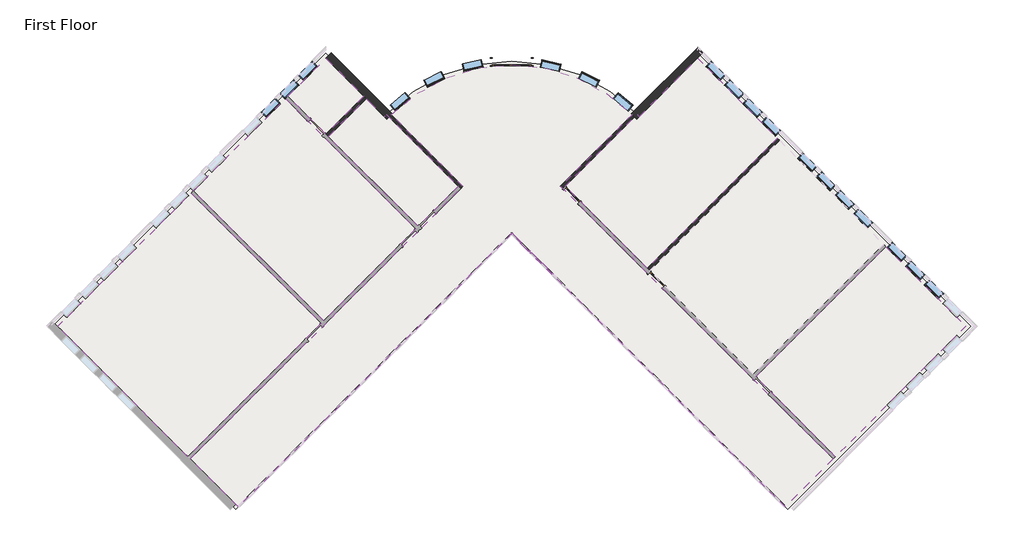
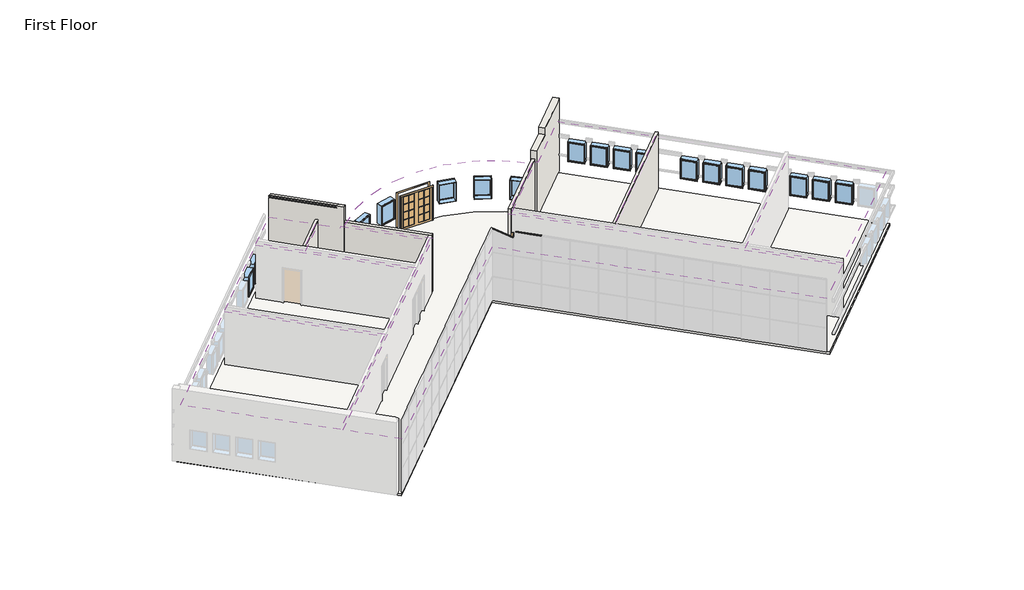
# One storey, part 4 of 5: 20 windows, 8 coverings, 6 walls, 3 doors, 3 members, 1 slab.
"""IFC4 building model written with IfcOpenShell, lengths in millimetres."""

from ifc_helpers import new_model, si_unit, point, frame, frame_2d, origin, origin_with_axes, place, context, project, spatial, polyline, circle_curve, ellipse_curve, trimmed, segment, composite_curve, outline, extrude, transform, mapped, element, save
from ifc_brep_helpers import plane_surface, cylinder_surface, revolved_surface, advanced_brep
from components import door_0a477ef8, door_5f5b55da, member_b87a50da, member_9574b3de, member_76f0c52a, window_15c49d37, window_0e2fc6ce

model = new_model("IFC4")

# Units and contexts
model_context = context("Model", 3, world=origin())
ifc_project = project(units=[si_unit("LENGTHUNIT", "METRE", prefix="MILLI")], contexts=[model_context])

# Site, building, storey
site = spatial("IfcSite", under=ifc_project)
building = spatial("IfcBuilding", under=site)
storey = spatial("IfcBuildingStorey", under=building, Name="First Floor", Elevation=0.0)

# Coverings
placement = place(None, origin())
element("IfcCovering", 1, ObjectType="2' x 2' ACT System", at=placement, inside=storey, context=model_context, shape_type="SweptSolid", body=[
    extrude(outline(polyline([(-17633.6967091, 4930.552621), (-13359.2125777, 9205.0367523), (-7322.2354004, 3168.0595749), (-11596.7195317, -1106.4245564), (-17633.6967091, 4930.552621)])), frame((0.0, 0.0, 3352.8), z_axis=(0.0, 0.0, 1.0), x_axis=(1.0, 0.0, 0.0)), (0.0, 0.0, 1.0), 57.15),
])
element("IfcCovering", 2, ObjectType="2' x 2' ACT System", at=placement, inside=storey, context=model_context, shape_type="SweptSolid", body=[
    extrude(outline(polyline([(-11706.7276692, -1216.4326939), (-17885.2616628, -7394.9666875), (-23922.2388402, -1357.9895101), (-17743.7048466, 4820.5444835), (-11706.7276692, -1216.4326939)])), frame((0.0, 0.0, 3352.8), z_axis=(0.0, 0.0, 1.0), x_axis=(1.0, 0.0, 0.0)), (0.0, 0.0, 1.0), 57.15),
])
element("IfcCovering", 3, ObjectType="2' x 2' ACT System", at=placement, inside=storey, context=model_context, shape_type="SweptSolid", body=[
    extrude(outline(composite_curve([segment(polyline([(-607.4844504, 5141.7064221), (12039.1967967, -7504.974825), (9814.3383427, -9729.833279), (-2868.0283643, 2952.533428), (-15550.3950713, -9729.833279), (-17775.2535253, -7504.974825), (-5128.5722782, 5141.7064221), (-8449.0111375, 8462.1452813)]), True, "CONTINUOUS"), segment(trimmed(circle_curve(frame_2d((-2868.0283643, 2903.1420194)), 7877.175), [point((-8449.0111375, 8462.1452813))], [point((2712.9544089, 8462.1452813))], False, "CARTESIAN"), True, "CONTINUOUS"), segment(polyline([(2712.9544089, 8462.1452813), (-607.4844504, 5141.7064221)]), True, "CONTINUOUS")], self_intersect=False)), frame((0.0, 0.0, 3352.8), z_axis=(0.0, 0.0, 1.0), x_axis=(1.0, 0.0, 0.0)), (0.0, 0.0, 1.0), 57.15),
])
element("IfcCovering", 4, ObjectType="2' x 2' ACT System", at=placement, inside=storey, context=model_context, shape_type="SweptSolid", body=[
    extrude(outline(polyline([(-13249.2044403, 9315.0448898), (-11489.0742405, 11075.1750895), (-9728.9440408, 9315.0448898), (-11489.0742405, 7554.9146901), (-13249.2044403, 9315.0448898)])), frame((0.0, 0.0, 3352.8), z_axis=(0.0, 0.0, 1.0), x_axis=(1.0, 0.0, 0.0)), (0.0, 0.0, 1.0), 57.15),
])
element("IfcCovering", 5, ObjectType="2' x 2' ACT System", at=placement, inside=storey, context=model_context, shape_type="SweptSolid", body=[
    extrude(outline(polyline([(-11379.066103, 7444.9065526), (-9618.9359033, 9205.0367523), (-8786.2632499, 8372.3640989), (-8682.75474, 8475.8726089), (-5348.5885532, 5141.7064221), (-7212.2272629, 3278.0677124), (-11379.066103, 7444.9065526)])), frame((0.0, 0.0, 3352.8), z_axis=(0.0, 0.0, 1.0), x_axis=(1.0, 0.0, 0.0)), (0.0, 0.0, 1.0), 57.15),
])
element("IfcCovering", 6, ObjectType="2' x 2' ACT System", at=placement, inside=storey, context=model_context, shape_type="SweptSolid", body=[
    extrude(outline(composite_curve([segment(polyline([(-607.4844504, 5141.7064221), (12039.1967967, -7504.974825), (9814.3383427, -9729.833279), (-2868.0283643, 2952.533428), (-15550.3950713, -9729.833279), (-17775.2535253, -7504.974825), (-5128.5722782, 5141.7064221), (-8449.0111375, 8462.1452813)]), True, "CONTINUOUS"), segment(trimmed(circle_curve(frame_2d((-2868.0283643, 2903.1420194)), 7877.175), [point((-8449.0111375, 8462.1452813))], [point((2712.9544089, 8462.1452813))], False, "CARTESIAN"), True, "CONTINUOUS"), segment(polyline([(2712.9544089, 8462.1452813), (-607.4844504, 5141.7064221)]), True, "CONTINUOUS")], self_intersect=False)), frame((0.0, 0.0, 3352.8), z_axis=(0.0, 0.0, 1.0), x_axis=(1.0, 0.0, 0.0)), (0.0, 0.0, 1.0), 57.15),
])
element("IfcCovering", 7, ObjectType="2' x 2' ACT System", at=placement, inside=storey, context=model_context, shape_type="SweptSolid", body=[
    extrude(outline(polyline([(2946.6980114, 8475.8726089), (3050.2065213, 8372.3640989), (5753.0175119, 11075.1750895), (9452.8830338, 7375.3095676), (3415.9058564, 1338.3323903), (-387.4681754, 5141.7064221), (2946.6980114, 8475.8726089)])), frame((0.0, 0.0, 3352.8), z_axis=(0.0, 0.0, 1.0), x_axis=(1.0, 0.0, 0.0)), (0.0, 0.0, 1.0), 57.15),
])
element("IfcCovering", 8, ObjectType="2' x 2' ACT System", at=placement, inside=storey, context=model_context, shape_type="SweptSolid", body=[
    extrude(outline(polyline([(8449.3394123, -3695.1011656), (14486.3165897, 2341.8760118), (18186.1821115, -1357.9895101), (12149.2049342, -7394.9666875), (8449.3394123, -3695.1011656)])), frame((0.0, 0.0, 3352.8), z_axis=(0.0, 0.0, 1.0), x_axis=(1.0, 0.0, 0.0)), (0.0, 0.0, 1.0), 57.15),
])

# Doors
door_shape = door_0a477ef8(model_context)
element("IfcDoor", 9, ObjectType="Double-Glass 2 : 72\" x 84\"", at=placement, inside=storey, context=model_context, shape_type="MappedRepresentation", body=[
    mapped(door_shape, transform((-2868.7603243, 10905.5717204, 0.0), x_axis=(-0.9999999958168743, -9.146721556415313e-05, 0.0), y_axis=(9.146721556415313e-05, -0.9999999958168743, 0.0), z_axis=(0.0, 0.0, 1.0))),
])
door_2_shape = door_5f5b55da(model_context)
element("IfcDoor", 10, ObjectType="Single-Glass 1 : 36\" x 84\"", at=placement, inside=storey, context=model_context, shape_type="MappedRepresentation", body=[
    mapped(door_2_shape, transform((-66.4240191, 4710.6541283, 0.0), x_axis=(-0.7071067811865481, 0.7071067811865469, 0.0), y_axis=(-0.7071067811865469, -0.7071067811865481, 0.0), z_axis=(0.0, 0.0, 1.0))),
])
element("IfcDoor", 11, ObjectType="Single-Glass 1 : 36\" x 84\"", at=placement, inside=storey, context=model_context, shape_type="MappedRepresentation", body=[
    mapped(door_2_shape, transform((3846.9581502, 797.271959, 0.0), x_axis=(-0.7071067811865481, 0.7071067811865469, 0.0), y_axis=(-0.7071067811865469, -0.7071067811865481, 0.0), z_axis=(0.0, 0.0, 1.0))),
])

# Members
member_shape = member_b87a50da(model_context)
element("IfcMember", 12, ObjectType="Rectangular Mullion : 1.5\" x 2.5\" Rectangular", at=placement, inside=storey, context=model_context, shape_type="MappedRepresentation", body=[
    mapped(member_shape, transform((-2868.0283643, 2952.533428, 0.0), x_axis=(-0.7071067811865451, 0.70710678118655, 0.0), y_axis=(0.70710678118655, 0.7071067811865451, 0.0), z_axis=(0.0, 0.0, -1.0))),
])
member_2_shape = member_9574b3de(model_context)
element("IfcMember", 13, ObjectType="Rectangular Mullion : 1.5\" x 2.5\" Rectangular", at=placement, inside=storey, context=model_context, shape_type="MappedRepresentation", body=[
    mapped(member_2_shape, transform((-1978.9830083, 2063.488072, 4572.0), x_axis=(0.0, 0.0, 1.0), y_axis=(0.7071067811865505, 0.7071067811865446, 0.0), z_axis=(-0.7071067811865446, 0.7071067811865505, 0.0))),
])
member_3_shape = member_76f0c52a(model_context)
element("IfcMember", 14, ObjectType="Rectangular Mullion : 1.5\" x 2.5\" Rectangular", at=placement, inside=storey, context=model_context, shape_type="MappedRepresentation", body=[
    mapped(member_3_shape, transform((-2868.0283643, 2952.533428, 4572.0), x_axis=(0.2236067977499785, -0.22360679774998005, 0.9486832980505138), y_axis=(0.7071067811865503, 0.7071067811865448, 0.0), z_axis=(-0.6708203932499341, 0.6708203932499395, 0.31622776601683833))),
])

# Slab
element("IfcSlab", 15, ObjectType="LW Concrete on Metal Deck", at=placement, inside=storey, context=model_context, shape_type="SweptSolid", body=[
    extrude(outline(composite_curve([segment(polyline([(-11489.0742405, 11308.6617487), (-8661.5174871, 8481.1049952)]), True, "CONTINUOUS"), segment(trimmed(circle_curve(frame_2d((-2868.0283643, 2903.1420194)), 8042.275), [point((-8661.5174871, 8481.1049952))], [point((2925.4607585, 8481.1049952))], False, "CARTESIAN"), True, "CONTINUOUS"), segment(polyline([(2925.4607585, 8481.1049952), (5753.0175119, 11308.6617487), (18419.6687707, -1357.9895101), (9931.0816722, -9846.5766085), (-2868.0283643, 2952.533428), (-15667.1384009, -9846.5766085), (-24155.7254993, -1357.9895101), (-11489.0742405, 11308.6617487)]), True, "CONTINUOUS")], self_intersect=False)), frame((0.0, 0.0, -139.7), z_axis=(0.0, 0.0, 1.0), x_axis=(1.0, 0.0, 0.0)), (0.0, 0.0, 1.0), 139.7),
])

# Walls
element("IfcWall", 16, ObjectType="Exterior - Split Face and CMU on Mtl. Stud", at=placement, inside=storey, context=model_context, shape_type="AdvancedBrep", body=[
    advanced_brep(
    [(2921.9555443, 8244.1131219, 0.0), (5753.0175119, 11075.1750895, 0.0), (6002.2196193, 11324.3771969, 0.0), (6002.2196193, 11324.3771969, 1016.0), (5937.1127624, 11259.27034, 1016.0), (5937.1127624, 11259.27034, 1085.85), (6002.2196193, 11324.3771969, 1085.85), (6002.2196193, 11324.3771969, 2133.6), (5937.1127624, 11259.27034, 2133.6), (5937.1127624, 11259.27034, 2336.8), (6002.2196193, 11324.3771969, 2336.8), (6002.2196193, 11324.3771969, 3048.0), (5937.1127624, 11259.27034, 3048.0), (5937.1127624, 11259.27034, 3251.2), (6002.2196193, 11324.3771969, 3251.2), (6002.2196193, 11324.3771969, 4572.0), (5753.0175119, 11075.1750895, 4572.0), (4034.0155785, 9356.1731561, 4572.0), (4034.0155785, 9356.1731561, 4165.6), (2921.9555443, 8244.1131219, 4165.6), (2677.2250436, 8497.7868359, 0.0), (2677.2250436, 8497.7868359, 4165.6), (3788.5408447, 9609.102637, 4165.6), (3788.5408447, 9609.102637, 4572.0), (5753.0175119, 11573.5793042, 4572.0), (5753.0175119, 11573.5793042, 3251.2), (2926.4294954, 8746.9912878, 3251.2), (2861.3220456, 8681.8838379, 3251.2), (2861.3220456, 8681.8838379, 3048.0), (2926.4294954, 8746.9912878, 3048.0), (5753.0175119, 11573.5793042, 3048.0), (5753.0175119, 11573.5793042, 2336.8), (2926.4294954, 8746.9912878, 2336.8), (2861.3220456, 8681.8838379, 2336.8), (2861.3220456, 8681.8838379, 2133.6), (2926.4294954, 8746.9912878, 2133.6), (5753.0175119, 11573.5793042, 2133.6), (5753.0175119, 11573.5793042, 1085.85), (2926.4294954, 8746.9912878, 1085.85), (2861.3220456, 8681.8838379, 1085.85), (2861.3220456, 8681.8838379, 1016.0), (2926.4294954, 8746.9912878, 1016.0), (5753.0175119, 11573.5793042, 1016.0), (5753.0175119, 11573.5793042, 0.0), (2926.4294954, 8746.9912878, 0.0), (5818.1243688, 11508.4724474, 0.0), (2712.9544089, 8462.1452813, 0.0), (2742.2400511, 8432.5881297, 0.0), (2821.6568654, 8350.8358404, 0.0), (5753.0175119, 11443.3655905, 1085.85), (2926.3399919, 8616.6880705, 1085.85), (2926.3399919, 8616.6880705, 1016.0), (5753.0175119, 11443.3655905, 1016.0), (2926.3399919, 8616.6880705, 2133.6), (5753.0175119, 11443.3655905, 2133.6), (2926.3399919, 8616.6880705, 2336.8), (5753.0175119, 11443.3655905, 2336.8), (2926.3399919, 8616.6880705, 3048.0), (5753.0175119, 11443.3655905, 3048.0), (2926.3399919, 8616.6880705, 3251.2), (5753.0175119, 11443.3655905, 3251.2)],
    [
        (0, 1),
        (1, 2),
        (2, 3),
        (3, 4),
        (4, 5),
        (5, 6),
        (6, 7),
        (7, 8),
        (8, 9),
        (9, 10),
        (10, 11),
        (11, 12),
        (12, 13),
        (13, 14),
        (14, 15),
        (15, 16),
        (16, 17),
        (17, 18),
        (18, 19),
        (19, 0),
        (20, 21),
        (21, 22),
        (22, 23),
        (23, 24),
        (24, 25),
        (25, 26),
        (26, 27),
        (27, 28),
        (28, 29),
        (29, 30),
        (30, 31),
        (31, 32),
        (32, 33),
        (33, 34),
        (34, 35),
        (35, 36),
        (36, 37),
        (37, 38),
        (38, 39),
        (39, 40),
        (40, 41),
        (41, 42),
        (42, 43),
        (43, 44),
        (44, 20),
        (24, 15),
        (14, 25),
        (2, 45),
        (45, 43),
        (42, 3),
        (6, 37),
        (36, 7),
        (10, 31),
        (30, 11),
        (19, 21, circle_curve(frame((-2868.0283643, 2903.1420194, 4165.6), z_axis=(0.0, 0.0, 1.0), x_axis=(1.0, 0.0, 0.0)), 7877.175)),
        (20, 46, circle_curve(frame((-2868.0283643, 2903.1420194, 0.0), z_axis=(0.0, 0.0, -1.0), x_axis=(1.0, 0.0, 0.0)), 7877.175)),
        (46, 47, circle_curve(frame((-2868.0283643, 2903.1420194, 0.0), z_axis=(0.0, 0.0, -1.0), x_axis=(1.0, 0.0, 0.0)), 7877.175)),
        (47, 48, circle_curve(frame((-2868.0283643, 2903.1420194, 0.0), z_axis=(0.0, 0.0, -1.0), x_axis=(1.0, 0.0, 0.0)), 7877.175)),
        (48, 0, circle_curve(frame((-2868.0283643, 2903.1420194, 0.0), z_axis=(0.0, 0.0, -1.0), x_axis=(1.0, 0.0, 0.0)), 7877.175)),
        (23, 17, circle_curve(frame((-2868.0283643, 2903.1420194, 4572.0), z_axis=(0.0, 0.0, -1.0), x_axis=(1.0, 0.0, 0.0)), 9448.8)),
        (22, 18, circle_curve(frame((-2868.0283643, 2903.1420194, 4165.6), z_axis=(0.0, 0.0, -1.0), x_axis=(1.0, 0.0, 0.0)), 9448.8)),
        (47, 45),
        (49, 50),
        (50, 39, circle_curve(frame((-2868.0283643, 2903.1420194, 1085.85), z_axis=(0.0, 0.0, 1.0), x_axis=(0.6844196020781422, 0.7290883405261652, 0.0)), 8137.525)),
        (5, 49),
        (51, 52),
        (52, 4),
        (40, 51, circle_curve(frame((-2868.0283643, 2903.1420194, 1016.0), z_axis=(0.0, 0.0, -1.0), x_axis=(0.6844196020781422, 0.7290883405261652, 0.0)), 8137.525)),
        (50, 51),
        (49, 52),
        (53, 54),
        (54, 8),
        (34, 53, circle_curve(frame((-2868.0283643, 2903.1420194, 2133.6), z_axis=(0.0, 0.0, -1.0), x_axis=(0.6844196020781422, 0.7290883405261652, 0.0)), 8137.525)),
        (55, 53),
        (33, 55, circle_curve(frame((-2868.0283643, 2903.1420194, 2336.8), z_axis=(0.0, 0.0, -1.0), x_axis=(0.6844196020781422, 0.7290883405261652, 0.0)), 8137.525)),
        (56, 55),
        (9, 56),
        (56, 54),
        (57, 58),
        (58, 12),
        (28, 57, circle_curve(frame((-2868.0283643, 2903.1420194, 3048.0), z_axis=(0.0, 0.0, -1.0), x_axis=(-0.7040995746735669, 0.7101012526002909, 0.0)), 8137.525)),
        (59, 57),
        (27, 59, circle_curve(frame((-2868.0283643, 2903.1420194, 3251.2), z_axis=(0.0, 0.0, -1.0), x_axis=(-0.7040995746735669, 0.7101012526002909, 0.0)), 8137.525)),
        (60, 59),
        (13, 60),
        (60, 58),
    ],
    [
        plane_surface(frame((2984.8535626, 8307.0111402, 0.0), z_axis=(0.707106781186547, -0.7071067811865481, 0.0), x_axis=(0.7071067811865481, 0.707106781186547, 0.0))),
        plane_surface(frame((2735.6514552, 8556.2132476, 0.0), z_axis=(-0.707106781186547, 0.7071067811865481, 0.0), x_axis=(-0.7071067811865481, -0.707106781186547, 0.0))),
        plane_surface(frame((5753.0175119, 11573.5793042, 0.0), z_axis=(0.7071067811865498, 0.7071067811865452, 0.0), x_axis=(-0.7071067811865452, 0.7071067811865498, 0.0))),
        revolved_surface(polyline([(5009.146635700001, 2903.1420194, 0.0), (5009.146635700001, 2903.1420194, 4165.6)]), (-2868.0283643, 2903.1420194, 0.0), (0.0, 0.0, -1.0)),
        plane_surface(frame((5877.6185656, 11199.7761432, 4572.0), z_axis=(0.0, 0.0, 1.0), x_axis=(-0.707106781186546, 0.7071067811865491, 0.0))),
        revolved_surface(polyline([(6580.771635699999, 2903.1420194, 4572.0), (6580.771635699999, 2903.1420194, 4165.6)]), (-2868.0283643, 2903.1420194, 0.0), (0.0, 0.0, 1.0)),
        plane_surface(frame((-2868.0283643, 2903.1420194, 4165.6), z_axis=(0.0, 0.0, 1.0), x_axis=(1.0, 0.0, 0.0))),
        plane_surface(frame((3050.2065213, 8372.3640989, 0.0), z_axis=(0.0, 0.0, -1.0000000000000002), x_axis=(-0.7071067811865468, 0.7071067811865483, 0.0))),
        plane_surface(frame((0.0, 0.0, 0.0), z_axis=(0.0, 0.0, -1.0), x_axis=(1.0, 0.0, 0.0))),
        plane_surface(frame((-2868.0283643, 2903.1420194, 1085.85), z_axis=(0.0, 0.0, -1.0), x_axis=(0.6844196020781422, 0.7290883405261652, 0.0))),
        plane_surface(frame((-2868.0283643, 2903.1420194, 1016.0), z_axis=(0.0, 0.0, 1.0), x_axis=(0.6844196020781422, 0.7290883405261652, 0.0))),
        cylinder_surface(frame((-2868.0283643, 2903.1420194, 1016.0), z_axis=(0.0, 0.0, -1.0), x_axis=(0.6844196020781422, 0.7290883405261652, 0.0)), 8137.525),
        plane_surface(frame((2926.3399919, 8616.6880705, 1016.0), z_axis=(-0.7071067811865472, 0.7071067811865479, 0.0), x_axis=(0.7071067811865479, 0.7071067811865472, 0.0))),
        plane_surface(frame((5753.0175119, 11443.3655905, 1016.0), z_axis=(0.7071067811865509, 0.7071067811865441, 0.0), x_axis=(0.7071067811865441, -0.7071067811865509, 0.0))),
        plane_surface(frame((-2868.0283643, 2903.1420194, 2133.6), z_axis=(0.0, 0.0, 1.0), x_axis=(0.6844196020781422, 0.7290883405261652, 0.0))),
        cylinder_surface(frame((-2868.0283643, 2903.1420194, 2133.6), z_axis=(0.0, 0.0, -1.0), x_axis=(0.6844196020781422, 0.7290883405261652, 0.0)), 8137.525),
        plane_surface(frame((-2868.0283643, 2903.1420194, 2336.8), z_axis=(0.0, 0.0, -1.0), x_axis=(0.6844196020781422, 0.7290883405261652, 0.0))),
        plane_surface(frame((2926.3399919, 8616.6880705, 2133.6), z_axis=(-0.7071067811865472, 0.7071067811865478, 0.0), x_axis=(0.7071067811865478, 0.7071067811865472, 0.0))),
        plane_surface(frame((5753.0175119, 11443.3655905, 2133.6), z_axis=(0.7071067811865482, 0.7071067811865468, 0.0), x_axis=(0.7071067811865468, -0.7071067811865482, 0.0))),
        plane_surface(frame((-2868.0283643, 2903.1420194, 3048.0), z_axis=(0.0, 0.0, 1.0), x_axis=(-0.7040995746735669, 0.7101012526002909, 0.0))),
        cylinder_surface(frame((-2868.0283643, 2903.1420194, 3048.0), z_axis=(0.0, 0.0, -1.0), x_axis=(-0.7040995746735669, 0.7101012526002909, 0.0)), 8137.525),
        plane_surface(frame((-2868.0283643, 2903.1420194, 3251.2), z_axis=(0.0, 0.0, -1.0), x_axis=(-0.7040995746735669, 0.7101012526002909, 0.0))),
        plane_surface(frame((2926.3399919, 8616.6880705, 3048.0), z_axis=(-0.7071067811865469, 0.7071067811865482, 0.0), x_axis=(0.7071067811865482, 0.7071067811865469, 0.0))),
        plane_surface(frame((5753.0175119, 11443.3655905, 3048.0), z_axis=(0.7071067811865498, 0.7071067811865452, 0.0), x_axis=(0.7071067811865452, -0.7071067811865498, 0.0))),
    ],
    [
        (0, [[1, 2, 3, 4, 5, 6, 7, 8, 9, 10, 11, 12, 13, 14, 15, 16, 17, 18, 19, 20]]),
        (1, [[21, 22, 23, 24, 25, 26, 27, 28, 29, 30, 31, 32, 33, 34, 35, 36, 37, 38, 39, 40, 41, 42, 43, 44, 45]]),
        (2, [[46, -15, 47, -25]]),
        (2, [[48, 49, -43, 50, -3]]),
        (2, [[51, -37, 52, -7]]),
        (2, [[53, -31, 54, -11]]),
        (3, [[-20, 55, -21, 56, 57, 58, 59]]),
        (4, [[-46, -24, 60, -17, -16]]),
        (5, [[-60, -23, 61, -18]]),
        (6, [[-19, -61, -22, -55]]),
        (7, [[-2, -1, -59, -58, 62, -48]]),
        (8, [[-57, -56, -45, -44, -49, -62]]),
        (9, [[63, 64, -39, -38, -51, -6, 65]]),
        (10, [[66, 67, -4, -50, -42, -41, 68]]),
        (11, [[69, -68, -40, -64]]),
        (12, [[-63, 70, -66, -69]]),
        (13, [[-70, -65, -5, -67]]),
        (14, [[71, 72, -8, -52, -36, -35, 73]]),
        (15, [[74, -73, -34, 75]]),
        (16, [[76, -75, -33, -32, -53, -10, 77]]),
        (17, [[-71, -74, -76, 78]]),
        (18, [[-78, -77, -9, -72]]),
        (19, [[79, 80, -12, -54, -30, -29, 81]]),
        (20, [[82, -81, -28, 83]]),
        (21, [[84, -83, -27, -26, -47, -14, 85]]),
        (22, [[-79, -82, -84, 86]]),
        (23, [[-86, -85, -13, -80]]),
    ],
),
])
element("IfcWall", 17, ObjectType="Exterior - Split Face and CMU on Mtl. Stud", at=placement, inside=storey, context=model_context, shape_type="AdvancedBrep", body=[
    advanced_brep(
    [(-11489.0742405, 11075.1750895, 0.0), (-9728.9440408, 9315.0448898, 0.0), (-9618.9359033, 9205.0367523, 0.0), (-8658.0122729, 8244.1131219, 0.0), (-8658.0122729, 8244.1131219, 4689.475), (-11489.0742405, 11075.1750895, 4689.475), (-11489.0742405, 11075.1750895, 4639.3965909), (-8911.6883314, 8497.7891804, 4639.3965909), (-8911.6883314, 8497.7891804, 4572.0), (-11489.0742405, 11075.1750895, 4572.0), (-8413.2817722, 8497.7868359, 4572.0), (-8413.2817722, 8497.7868359, 0.0), (-8662.486224, 8746.9912878, 0.0), (-11239.8721332, 11324.3771969, 0.0), (-11239.8721332, 11324.3771969, 1016.0), (-8662.486224, 8746.9912878, 1016.0), (-8597.3787742, 8681.8838379, 1016.0), (-8597.3787742, 8681.8838379, 1085.85), (-8662.486224, 8746.9912878, 1085.85), (-11239.8721332, 11324.3771969, 1085.85), (-11239.8721332, 11324.3771969, 2133.6), (-8662.486224, 8746.9912878, 2133.6), (-8597.3787742, 8681.8838379, 2133.6), (-8597.3787742, 8681.8838379, 2336.8), (-8662.486224, 8746.9912878, 2336.8), (-11239.8721332, 11324.3771969, 2336.8), (-11239.8721332, 11324.3771969, 3048.0), (-8662.486224, 8746.9912878, 3048.0), (-8597.3787742, 8681.8838379, 3048.0), (-8597.3787742, 8681.8838379, 3251.2), (-8662.486224, 8746.9912878, 3251.2), (-11239.8721332, 11324.3771969, 3251.2), (-11239.8721332, 11324.3771969, 4572.0), (-8662.486224, 8746.9912878, 4572.0), (-8557.713594, 8350.8358404, 0.0), (-8478.2967797, 8432.5881297, 0.0), (-8449.0111375, 8462.1452813, 0.0), (-11304.9789901, 11259.27034, 0.0), (-11304.9789901, 11259.27034, 3251.2), (-11304.9789901, 11259.27034, 3048.0), (-11304.9789901, 11259.27034, 2336.8), (-11304.9789901, 11259.27034, 2133.6), (-11304.9789901, 11259.27034, 1085.85), (-11304.9789901, 11259.27034, 1016.0), (-11413.683542, 11150.5657881, 4653.9354839), (-8836.2976328, 8573.179879, 4653.9354839), (-8662.3967205, 8616.6880705, 1085.85), (-8662.3967205, 8616.6880705, 1016.0), (-8662.3967205, 8616.6880705, 2336.8), (-8662.3967205, 8616.6880705, 2133.6), (-8662.3967205, 8616.6880705, 3251.2), (-8662.3967205, 8616.6880705, 3048.0)],
    [
        (0, 1),
        (1, 2),
        (2, 3),
        (3, 4),
        (4, 5),
        (5, 6),
        (6, 7),
        (7, 8),
        (8, 9),
        (9, 0),
        (10, 11),
        (11, 12),
        (12, 13),
        (13, 14),
        (14, 15),
        (15, 16),
        (16, 17),
        (17, 18),
        (18, 19),
        (19, 20),
        (20, 21),
        (21, 22),
        (22, 23),
        (23, 24),
        (24, 25),
        (25, 26),
        (26, 27),
        (27, 28),
        (28, 29),
        (29, 30),
        (30, 31),
        (31, 32),
        (32, 33),
        (33, 10),
        (3, 34, circle_curve(frame((-2868.0283643, 2903.1420194, 0.0), z_axis=(0.0, 0.0, -1.0), x_axis=(1.0, 0.0, 0.0)), 7877.175)),
        (34, 35, circle_curve(frame((-2868.0283643, 2903.1420194, 0.0), z_axis=(0.0, 0.0, -1.0), x_axis=(1.0, 0.0, 0.0)), 7877.175)),
        (35, 36, circle_curve(frame((-2868.0283643, 2903.1420194, 0.0), z_axis=(0.0, 0.0, -1.0), x_axis=(1.0, 0.0, 0.0)), 7877.175)),
        (36, 11, circle_curve(frame((-2868.0283643, 2903.1420194, 0.0), z_axis=(0.0, 0.0, -1.0), x_axis=(1.0, 0.0, 0.0)), 7877.175)),
        (10, 4, ellipse_curve(frame((-2868.0283643, 2903.1420194, 4583.6416667), z_axis=(0.2236067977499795, 0.22360679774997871, 0.9486832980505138), x_axis=(0.6708203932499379, 0.6708203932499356, -0.31622776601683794)), 8303.2715092, 7877.175)),
        (37, 0),
        (9, 32),
        (31, 38),
        (38, 39),
        (39, 26),
        (25, 40),
        (40, 41),
        (41, 20),
        (19, 42),
        (42, 43),
        (43, 14),
        (13, 37),
        (5, 44),
        (44, 6),
        (33, 45),
        (45, 44),
        (37, 35),
        (46, 47),
        (47, 43),
        (42, 46),
        (17, 46, circle_curve(frame((-2868.0283643, 2903.1420194, 1085.85), z_axis=(0.0, 0.0, 1.0), x_axis=(-0.7040995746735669, 0.7101012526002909, 0.0)), 8137.525)),
        (47, 16, circle_curve(frame((-2868.0283643, 2903.1420194, 1016.0), z_axis=(0.0, 0.0, -1.0), x_axis=(-0.7040995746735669, 0.7101012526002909, 0.0)), 8137.525)),
        (48, 49),
        (49, 41),
        (40, 48),
        (49, 22, circle_curve(frame((-2868.0283643, 2903.1420194, 2133.6), z_axis=(0.0, 0.0, -1.0), x_axis=(-0.7120553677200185, 0.70212331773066, 0.0)), 8137.525)),
        (48, 23, circle_curve(frame((-2868.0283643, 2903.1420194, 2336.8), z_axis=(0.0, 0.0, -1.0), x_axis=(-0.7120553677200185, 0.70212331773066, 0.0)), 8137.525)),
        (50, 51),
        (51, 39),
        (38, 50),
        (51, 28, circle_curve(frame((-2868.0283643, 2903.1420194, 3048.0), z_axis=(0.0, 0.0, -1.0), x_axis=(-0.7120553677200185, 0.70212331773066, 0.0)), 8137.525)),
        (50, 29, circle_curve(frame((-2868.0283643, 2903.1420194, 3251.2), z_axis=(0.0, 0.0, -1.0), x_axis=(-0.7120553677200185, 0.70212331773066, 0.0)), 8137.525)),
        (8, 33),
        (7, 45),
    ],
    [
        plane_surface(frame((-11738.2763479, 11324.3771969, 0.0), z_axis=(-0.7071067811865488, -0.7071067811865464, 0.0), x_axis=(0.7071067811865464, -0.7071067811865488, 0.0))),
        plane_surface(frame((-11489.0742405, 11573.5793042, 0.0), z_axis=(0.7071067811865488, 0.7071067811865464, 0.0), x_axis=(-0.7071067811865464, 0.7071067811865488, 0.0))),
        revolved_surface(polyline([(5009.146635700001, 2903.1420194, 0.0), (5009.146635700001, 2903.1420194, 7209.366666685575)]), (-2868.0283643, 2903.1420194, 0.0), (0.0, 0.0, -1.0)),
        plane_surface(frame((-24171.4409475, -1607.1916175, 0.0), z_axis=(-0.7071067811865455, 0.7071067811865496, 0.0), x_axis=(0.7071067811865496, 0.7071067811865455, 0.0))),
        plane_surface(frame((-1143.8191891, 2952.533428, 4165.6), z_axis=(0.2236067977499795, 0.22360679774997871, 0.9486832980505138), x_axis=(-0.7071067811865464, 0.7071067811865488, 0.0))),
        plane_surface(frame((-11613.6752942, 11199.7761432, 0.0), z_axis=(0.0, 0.0, -1.0000000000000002), x_axis=(0.7071067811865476, 0.7071067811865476, 0.0))),
        plane_surface(frame((0.0, 0.0, 0.0), z_axis=(0.0, 0.0, -1.0), x_axis=(1.0, 0.0, 0.0))),
        plane_surface(frame((-11489.0742405, 11443.3655905, 1016.0), z_axis=(0.7071067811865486, 0.7071067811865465, 0.0), x_axis=(0.7071067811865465, -0.7071067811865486, 0.0))),
        plane_surface(frame((-2868.0283643, 2903.1420194, 1085.85), z_axis=(0.0, 0.0, -1.0), x_axis=(-0.7040995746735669, 0.7101012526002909, 0.0))),
        plane_surface(frame((-2868.0283643, 2903.1420194, 1016.0), z_axis=(0.0, 0.0, 1.0), x_axis=(-0.7040995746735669, 0.7101012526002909, 0.0))),
        cylinder_surface(frame((-2868.0283643, 2903.1420194, 1016.0), z_axis=(0.0, 0.0, -1.0), x_axis=(-0.7040995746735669, 0.7101012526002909, 0.0)), 8137.525),
        plane_surface(frame((-11489.0742405, 11443.3655905, 2133.6), z_axis=(0.7071067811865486, 0.7071067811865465, 0.0), x_axis=(0.7071067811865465, -0.7071067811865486, 0.0))),
        plane_surface(frame((-2868.0283643, 2903.1420194, 2133.6), z_axis=(0.0, 0.0, 1.0), x_axis=(-0.7120553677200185, 0.70212331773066, 0.0))),
        cylinder_surface(frame((-2868.0283643, 2903.1420194, 2133.6), z_axis=(0.0, 0.0, -1.0), x_axis=(-0.7120553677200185, 0.70212331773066, 0.0)), 8137.525),
        plane_surface(frame((-2868.0283643, 2903.1420194, 2336.8), z_axis=(0.0, 0.0, -1.0), x_axis=(-0.7120553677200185, 0.70212331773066, 0.0))),
        plane_surface(frame((-11489.0742405, 11443.3655905, 3048.0), z_axis=(0.7071067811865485, 0.7071067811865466, 0.0), x_axis=(0.7071067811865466, -0.7071067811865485, 0.0))),
        plane_surface(frame((-2868.0283643, 2903.1420194, 3048.0), z_axis=(0.0, 0.0, 1.0), x_axis=(-0.7120553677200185, 0.70212331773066, 0.0))),
        cylinder_surface(frame((-2868.0283643, 2903.1420194, 3048.0), z_axis=(0.0, 0.0, -1.0), x_axis=(-0.7120553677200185, 0.70212331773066, 0.0)), 8137.525),
        plane_surface(frame((-2868.0283643, 2903.1420194, 3251.2), z_axis=(0.0, 0.0, -1.0), x_axis=(-0.7120553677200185, 0.70212331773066, 0.0))),
        plane_surface(frame((-24438.6035671, -1340.0289979, 4572.0), z_axis=(0.0, 0.0, 1.0), x_axis=(0.7071067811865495, 0.7071067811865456, 0.0))),
        plane_surface(frame((-8662.486224, 8746.9912878, 4185.7445793), z_axis=(-0.7071067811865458, 0.7071067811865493, 0.0), x_axis=(0.7071067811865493, 0.7071067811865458, 0.0))),
        plane_surface(frame((-11489.0742405, 11034.763937, 4635.5), z_axis=(0.09553946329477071, 0.09553946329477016, -0.9908301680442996), x_axis=(0.7071067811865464, -0.7071067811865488, 0.0))),
    ],
    [
        (0, [[1, 2, 3, 4, 5, 6, 7, 8, 9, 10]]),
        (1, [[11, 12, 13, 14, 15, 16, 17, 18, 19, 20, 21, 22, 23, 24, 25, 26, 27, 28, 29, 30, 31, 32, 33, 34]]),
        (2, [[-4, 35, 36, 37, 38, -11, 39]]),
        (3, [[40, -10, 41, -32, 42, 43, 44, -26, 45, 46, 47, -20, 48, 49, 50, -14, 51]]),
        (3, [[-6, 52, 53]]),
        (4, [[-5, -39, -34, 54, 55, -52]]),
        (5, [[-3, -2, -1, -40, 56, -36, -35]]),
        (6, [[-51, -13, -12, -38, -37, -56]]),
        (7, [[57, 58, -49, 59]]),
        (8, [[60, -59, -48, -19, -18]]),
        (9, [[-58, 61, -16, -15, -50]]),
        (10, [[-57, -60, -17, -61]]),
        (11, [[62, 63, -46, 64]]),
        (12, [[-63, 65, -22, -21, -47]]),
        (13, [[-62, 66, -23, -65]]),
        (14, [[-66, -64, -45, -25, -24]]),
        (15, [[67, 68, -43, 69]]),
        (16, [[-68, 70, -28, -27, -44]]),
        (17, [[-67, 71, -29, -70]]),
        (18, [[-71, -69, -42, -31, -30]]),
        (19, [[72, -33, -41, -9]]),
        (20, [[73, -54, -72, -8]]),
        (21, [[-73, -7, -53, -55]]),
    ],
),
])
element("IfcWall", 18, ObjectType="Interior - 6 1/8\" Partition (2-hr)", at=placement, inside=storey, context=model_context, shape_type="AdvancedBrep", body=[
    advanced_brep(
    [(-5128.5722782, 5141.7064221, 0.0), (-8449.0111375, 8462.1452813, 0.0), (-8449.0111375, 8462.1452813, 3657.6), (-5128.5722782, 5141.7064221, 3657.6), (-5238.5804157, 5031.6982846, 0.0), (-5238.5804157, 5031.6982846, 3657.6), (-5348.5885532, 5141.7064221, 3657.6), (-8557.7157352, 8350.8336041, 3657.6), (-8557.7157352, 8350.8336041, 0.0), (-5348.5885532, 5141.7064221, 0.0)],
    [
        (0, 1),
        (1, 2),
        (2, 3),
        (3, 0),
        (4, 5),
        (5, 6),
        (6, 7),
        (7, 8),
        (8, 9),
        (9, 4),
        (0, 4),
        (8, 1, circle_curve(frame((-2868.0283643, 2903.1420194, 0.0), z_axis=(0.0, 0.0, -1.0), x_axis=(1.0, 0.0, 0.0)), 7877.175)),
        (2, 7, circle_curve(frame((-2868.0283643, 2903.1420194, 3657.6), z_axis=(0.0, 0.0, 1.0), x_axis=(1.0, 0.0, 0.0)), 7877.175)),
        (5, 3),
    ],
    [
        plane_surface(frame((-5183.576347, 5196.7104908, 0.0), z_axis=(0.7071067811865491, 0.7071067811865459, 0.0), x_axis=(-0.7071067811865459, 0.7071067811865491, 0.0))),
        plane_surface(frame((-5293.5844845, 5086.7023533, 0.0), z_axis=(-0.7071067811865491, -0.7071067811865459, 0.0), x_axis=(0.7071067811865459, -0.7071067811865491, 0.0))),
        plane_surface(frame((-5183.576347, 5196.7104908, 0.0), z_axis=(0.0, 0.0, -1.0), x_axis=(-0.707106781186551, -0.7071067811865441, 0.0))),
        plane_surface(frame((-8573.2406241, 8586.374768, 3657.6), z_axis=(0.0, 0.0, 1.0), x_axis=(-0.707106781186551, -0.7071067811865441, 0.0))),
        plane_surface(frame((-17899.854579, -7629.5758786, 0.0), z_axis=(0.7071067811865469, -0.7071067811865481, 0.0), x_axis=(0.7071067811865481, 0.7071067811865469, 0.0))),
        cylinder_surface(frame((-2868.0283643, 2903.1420194, 0.0), z_axis=(0.0, 0.0, -1.0), x_axis=(1.0, 0.0, 0.0)), 7877.175),
    ],
    [
        (0, [[1, 2, 3, 4]]),
        (1, [[5, 6, 7, 8, 9, 10]]),
        (2, [[-1, 11, -10, -9, 12]]),
        (3, [[-3, 13, -7, -6, 14]]),
        (4, [[-4, -14, -5, -11]]),
        (5, [[-2, -12, -8, -13]]),
    ],
),
])
element("IfcWall", 19, ObjectType="Interior - 6 1/8\" Partition (2-hr)", at=placement, inside=storey, context=model_context, shape_type="SweptSolid", body=[
    extrude(outline(polyline([(-11489.0742405, 7554.9146901), (-9728.9440408, 9315.0448898), (-9618.9359033, 9205.0367523), (-11379.066103, 7444.9065526), (-11489.0742405, 7554.9146901)])), origin_with_axes(), (0.0, 0.0, 1.0), 3657.6),
])
element("IfcWall", 20, ObjectType="Interior - 6 1/8\" Partition (2-hr)", at=placement, inside=storey, context=model_context, shape_type="AdvancedBrep", body=[
    advanced_brep(
    [(-497.4763129, 5031.6982846, 0.0), (-387.4681754, 5141.7064221, 0.0), (2821.6590066, 8350.8336041, 0.0), (2821.6590066, 8350.8336041, 3657.6), (-387.4681754, 5141.7064221, 3657.6), (-497.4763129, 5031.6982846, 3657.6), (-607.4844504, 5141.7064221, 0.0), (-607.4844504, 5141.7064221, 3657.6), (2712.9544089, 8462.1452813, 3657.6), (2712.9544089, 8462.1452813, 0.0)],
    [
        (0, 1),
        (1, 2),
        (2, 3),
        (3, 4),
        (4, 5),
        (5, 0),
        (6, 7),
        (7, 8),
        (8, 9),
        (9, 6),
        (0, 6),
        (9, 2, circle_curve(frame((-2868.0283643, 2903.1420194, 0.0), z_axis=(0.0, 0.0, -1.0), x_axis=(1.0, 0.0, 0.0)), 7877.175)),
        (3, 8, circle_curve(frame((-2868.0283643, 2903.1420194, 3657.6), z_axis=(0.0, 0.0, 1.0), x_axis=(1.0, 0.0, 0.0)), 7877.175)),
        (7, 5),
    ],
    [
        plane_surface(frame((-442.4722441, 5086.7023533, 0.0), z_axis=(0.7071067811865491, -0.7071067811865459, 0.0), x_axis=(0.7071067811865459, 0.7071067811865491, 0.0))),
        plane_surface(frame((-552.4803816, 5196.7104908, 0.0), z_axis=(-0.7071067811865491, 0.7071067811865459, 0.0), x_axis=(-0.7071067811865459, -0.7071067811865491, 0.0))),
        plane_surface(frame((-442.4722441, 5086.7023533, 0.0), z_axis=(0.0, 0.0, -1.0), x_axis=(-0.707106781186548, 0.7071067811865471, 0.0))),
        plane_surface(frame((2947.192033, 8476.3666305, 3657.6), z_axis=(0.0, 0.0, 1.0000000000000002), x_axis=(-0.7071067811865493, 0.7071067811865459, 0.0))),
        plane_surface(frame((12163.7978503, -7629.5758786, 0.0), z_axis=(-0.7071067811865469, -0.7071067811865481, 0.0), x_axis=(0.7071067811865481, -0.7071067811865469, 0.0))),
        cylinder_surface(frame((-2868.0283643, 2903.1420194, 0.0), z_axis=(0.0, 0.0, -1.0), x_axis=(1.0, 0.0, 0.0)), 7877.175),
    ],
    [
        (0, [[1, 2, 3, 4, 5, 6]]),
        (1, [[7, 8, 9, 10]]),
        (2, [[-2, -1, 11, -10, 12]]),
        (3, [[-5, -4, 13, -8, 14]]),
        (4, [[-6, -14, -7, -11]]),
        (5, [[-3, -12, -9, -13]]),
    ],
),
])
element("IfcWall", 21, ObjectType="Interior - 6 1/8\" Partition (2-hr)", at=placement, inside=storey, context=model_context, shape_type="SweptSolid", body=[
    extrude(outline(polyline([(3415.9058564, 1338.3323903), (9452.8830338, 7375.3095676), (9562.8911713, 7265.3014302), (3525.9139939, 1228.3242528), (3415.9058564, 1338.3323903)])), origin_with_axes(), (0.0, 0.0, 1.0), 3657.6),
])

# Windows
window_shape = window_15c49d37(model_context)
element("IfcWindow", 22, ObjectType="Fixed : 36\" x 48\"", at=placement, inside=storey, context=model_context, shape_type="MappedRepresentation", body=[
    mapped(window_shape, transform((-8066.2237793, 9037.6928325, 0.0), x_axis=(-0.7659856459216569, -0.6428576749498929, 0.0), y_axis=(0.6428576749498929, -0.7659856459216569, 0.0), z_axis=(0.0, 0.0, 1.0))),
])
element("IfcWindow", 23, ObjectType="Fixed : 36\" x 48\"", at=placement, inside=storey, context=model_context, shape_type="MappedRepresentation", body=[
    mapped(window_shape, transform((-4714.6266038, 10728.998151, 0.0), x_axis=(-0.9743494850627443, -0.2250401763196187, 0.0), y_axis=(0.2250401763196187, -0.9743494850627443, 0.0), z_axis=(0.0, 0.0, 1.0))),
])
element("IfcWindow", 24, ObjectType="Fixed : 36\" x 48\"", at=placement, inside=storey, context=model_context, shape_type="MappedRepresentation", body=[
    mapped(window_shape, transform((-6490.5147795, 10081.6893252, 0.0), x_axis=(-0.8948935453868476, -0.4462796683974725, 0.0), y_axis=(0.4462796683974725, -0.8948935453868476, 0.0), z_axis=(0.0, 0.0, 1.0))),
])
element("IfcWindow", 25, ObjectType="Fixed : 36\" x 48\"", at=placement, inside=storey, context=model_context, shape_type="MappedRepresentation", body=[
    mapped(window_shape, transform((6554.2698062, 10523.1249026, 0.0), x_axis=(-0.7071067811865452, 0.7071067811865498, 0.0), y_axis=(-0.7071067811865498, -0.7071067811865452, 0.0), z_axis=(0.0, 0.0, 1.0))),
])
element("IfcWindow", 26, ObjectType="Fixed : 36\" x 48\"", at=placement, inside=storey, context=model_context, shape_type="MappedRepresentation", body=[
    mapped(window_shape, transform((7416.3743938, 9661.020315, 0.0), x_axis=(-0.7071067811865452, 0.7071067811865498, 0.0), y_axis=(-0.7071067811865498, -0.7071067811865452, 0.0), z_axis=(0.0, 0.0, 1.0))),
])
element("IfcWindow", 27, ObjectType="Fixed : 36\" x 48\"", at=placement, inside=storey, context=model_context, shape_type="MappedRepresentation", body=[
    mapped(window_shape, transform((8278.4789814, 8798.9157274, 0.0), x_axis=(-0.7071067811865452, 0.7071067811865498, 0.0), y_axis=(-0.7071067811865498, -0.7071067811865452, 0.0), z_axis=(0.0, 0.0, 1.0))),
])
element("IfcWindow", 28, ObjectType="Fixed : 36\" x 48\"", at=placement, inside=storey, context=model_context, shape_type="MappedRepresentation", body=[
    mapped(window_shape, transform((9140.583569, 7936.8111398, 0.0), x_axis=(-0.7071067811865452, 0.7071067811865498, 0.0), y_axis=(-0.7071067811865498, -0.7071067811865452, 0.0), z_axis=(0.0, 0.0, 1.0))),
])
window_2_shape = window_0e2fc6ce(model_context)
element("IfcWindow", 29, ObjectType="Fixed : 36\" x 48\"", at=placement, inside=storey, context=model_context, shape_type="MappedRepresentation", body=[
    mapped(window_2_shape, transform((-12290.3265348, 10523.1249026, 0.0), x_axis=(0.7071067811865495, 0.7071067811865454, 0.0), y_axis=(-0.7071067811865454, 0.7071067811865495, 0.0), z_axis=(0.0, 0.0, 1.0))),
])
element("IfcWindow", 30, ObjectType="Fixed : 36\" x 48\"", at=placement, inside=storey, context=model_context, shape_type="MappedRepresentation", body=[
    mapped(window_2_shape, transform((-13152.4311224, 9661.020315, 0.0), x_axis=(0.7071067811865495, 0.7071067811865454, 0.0), y_axis=(-0.7071067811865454, 0.7071067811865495, 0.0), z_axis=(0.0, 0.0, 1.0))),
])
element("IfcWindow", 31, ObjectType="Fixed : 36\" x 48\"", at=placement, inside=storey, context=model_context, shape_type="MappedRepresentation", body=[
    mapped(window_2_shape, transform((-14014.53571, 8798.9157274, 0.0), x_axis=(0.7071067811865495, 0.7071067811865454, 0.0), y_axis=(-0.7071067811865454, 0.7071067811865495, 0.0), z_axis=(0.0, 0.0, 1.0))),
])
element("IfcWindow", 32, ObjectType="Fixed : 36\" x 48\"", at=placement, inside=storey, context=model_context, shape_type="MappedRepresentation", body=[
    mapped(window_2_shape, transform((2271.4327875, 9086.2422995, 0.0), x_axis=(-0.765985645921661, 0.642857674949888, 0.0), y_axis=(-0.642857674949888, -0.765985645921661, 0.0), z_axis=(0.0, 0.0, 1.0))),
])
element("IfcWindow", 33, ObjectType="Fixed : 36\" x 48\"", at=placement, inside=storey, context=model_context, shape_type="MappedRepresentation", body=[
    mapped(window_2_shape, transform((-1095.8037333, 10745.5912454, 0.0), x_axis=(-0.9743494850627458, 0.2250401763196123, 0.0), y_axis=(-0.2250401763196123, -0.9743494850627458, 0.0), z_axis=(0.0, 0.0, 1.0))),
])
element("IfcWindow", 34, ObjectType="Fixed : 36\" x 48\"", at=placement, inside=storey, context=model_context, shape_type="MappedRepresentation", body=[
    mapped(window_2_shape, transform((686.0129721, 10115.1861252, 0.0), x_axis=(-0.8948935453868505, 0.44627966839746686, 0.0), y_axis=(-0.44627966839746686, -0.8948935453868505, 0.0), z_axis=(0.0, 0.0, 1.0))),
])
element("IfcWindow", 35, ObjectType="Fixed : 36\" x 48\"", at=placement, inside=storey, context=model_context, shape_type="MappedRepresentation", body=[
    mapped(window_2_shape, transform((16738.115812, 339.2788968, 0.0), x_axis=(0.7071067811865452, -0.7071067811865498, 0.0), y_axis=(0.7071067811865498, 0.7071067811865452, 0.0), z_axis=(0.0, 0.0, 1.0))),
])
element("IfcWindow", 36, ObjectType="Fixed : 36\" x 48\"", at=placement, inside=storey, context=model_context, shape_type="MappedRepresentation", body=[
    mapped(window_2_shape, transform((15876.0112244, 1201.3834844, 0.0), x_axis=(0.7071067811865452, -0.7071067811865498, 0.0), y_axis=(0.7071067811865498, 0.7071067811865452, 0.0), z_axis=(0.0, 0.0, 1.0))),
])
element("IfcWindow", 37, ObjectType="Fixed : 36\" x 48\"", at=placement, inside=storey, context=model_context, shape_type="MappedRepresentation", body=[
    mapped(window_2_shape, transform((15013.9066368, 2063.488072, 0.0), x_axis=(0.7071067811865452, -0.7071067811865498, 0.0), y_axis=(0.7071067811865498, 0.7071067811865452, 0.0), z_axis=(0.0, 0.0, 1.0))),
])
element("IfcWindow", 38, ObjectType="Fixed : 36\" x 48\"", at=placement, inside=storey, context=model_context, shape_type="MappedRepresentation", body=[
    mapped(window_2_shape, transform((13451.8134959, 3625.5812129, 0.0), x_axis=(0.7071067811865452, -0.7071067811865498, 0.0), y_axis=(0.7071067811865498, 0.7071067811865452, 0.0), z_axis=(0.0, 0.0, 1.0))),
])
element("IfcWindow", 39, ObjectType="Fixed : 36\" x 48\"", at=placement, inside=storey, context=model_context, shape_type="MappedRepresentation", body=[
    mapped(window_2_shape, transform((12589.7089082, 4487.6858006, 0.0), x_axis=(0.7071067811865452, -0.7071067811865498, 0.0), y_axis=(0.7071067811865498, 0.7071067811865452, 0.0), z_axis=(0.0, 0.0, 1.0))),
])
element("IfcWindow", 40, ObjectType="Fixed : 36\" x 48\"", at=placement, inside=storey, context=model_context, shape_type="MappedRepresentation", body=[
    mapped(window_2_shape, transform((11727.6043206, 5349.7903882, 0.0), x_axis=(0.7071067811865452, -0.7071067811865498, 0.0), y_axis=(0.7071067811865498, 0.7071067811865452, 0.0), z_axis=(0.0, 0.0, 1.0))),
])
element("IfcWindow", 41, ObjectType="Fixed : 36\" x 48\"", at=placement, inside=storey, context=model_context, shape_type="MappedRepresentation", body=[
    mapped(window_2_shape, transform((10865.499733, 6211.8949758, 0.0), x_axis=(0.7071067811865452, -0.7071067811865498, 0.0), y_axis=(0.7071067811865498, 0.7071067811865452, 0.0), z_axis=(0.0, 0.0, 1.0))),
])

save(model, "model.ifc")
